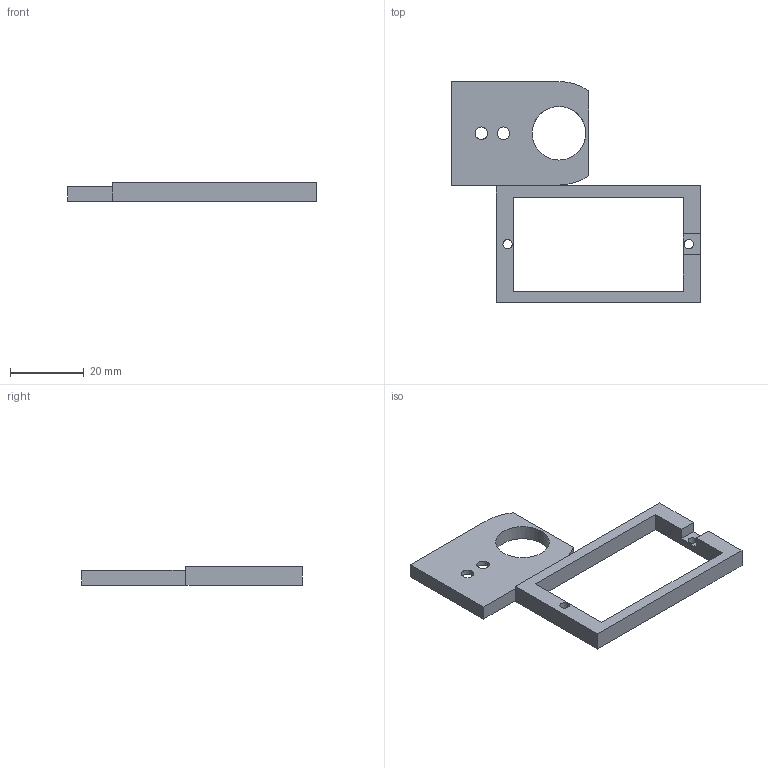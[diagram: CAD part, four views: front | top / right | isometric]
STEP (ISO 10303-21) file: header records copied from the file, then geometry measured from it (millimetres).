
FILE_DESCRIPTION(('FreeCAD Model'),'2;1');
FILE_NAME('Open CASCADE Shape Model','2026-11-08T23:31:29',('FreeCAD'),( 'FreeCAD'),'Open CASCADE STEP processor 7.8','FreeCAD','Unknown');
FILE_SCHEMA(('AUTOMOTIVE_DESIGN { 1 0 10303 214 1 1 1 1 }'));
Length unit declared in the file: millimetre
Products named in the file (1): Open CASCADE STEP translator 7.8 12
Bounding box: 67.2 x 59.75 x 5.01 mm (x, y, z)
Volume: 5621.5 mm3; surface area: 5310.3 mm2
Topology: 2 solids, 2 shells, 37 faces, 101 edges, 68 vertices
Faces by surface type: plane 26, cylinder 11
Full cylindrical faces by diameter (mm): 2.5 x4, 3.4 x2, 14.5 x1
Entity records: 1209 total; most frequent: CARTESIAN_POINT 207, DIRECTION 203, ORIENTED_EDGE 202, EDGE_CURVE 101, LINE 75, VECTOR 75, VERTEX_POINT 68, AXIS2_PLACEMENT_3D 64
